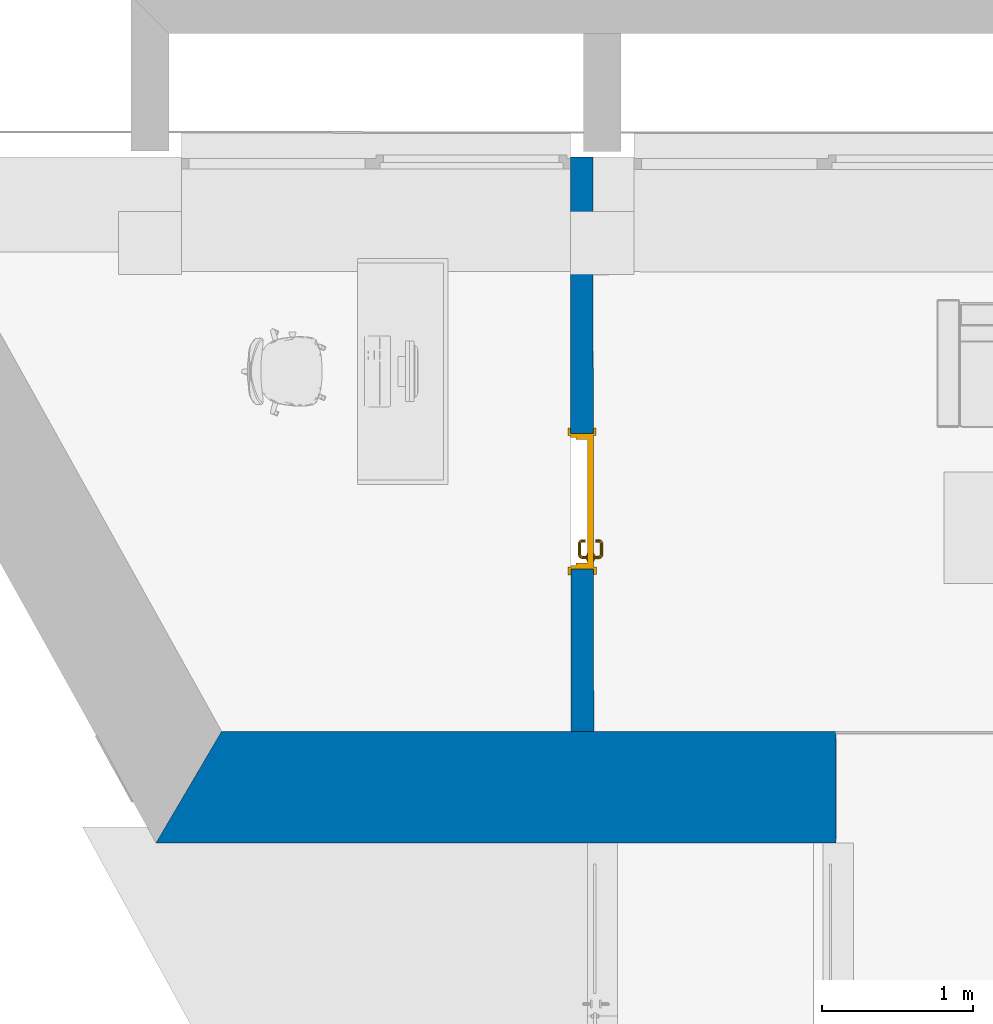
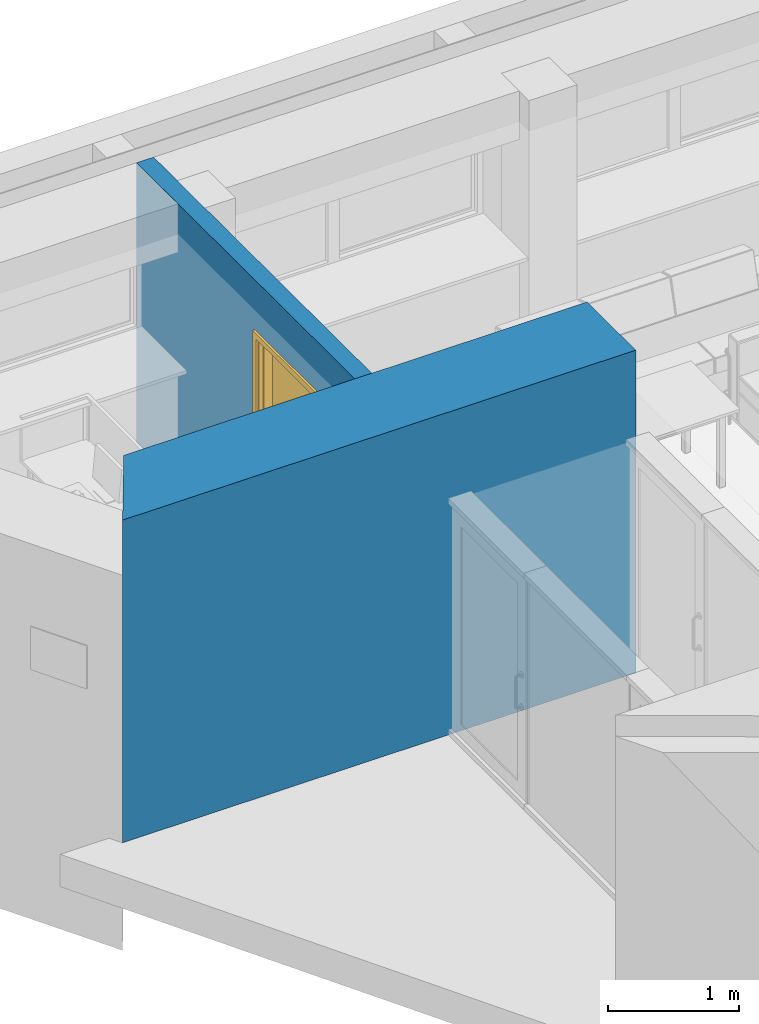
# One storey, part 3 of 127: 2 walls, 1 door, 1 opening.
"""IFC2X3 building model written with IfcOpenShell, lengths in millimetres."""

import ifcopenshell
import ifcopenshell.guid

model = None  # the IFC model being written
_history = None  # IfcOwnerHistory: only IFC2X3 demands one
_inside = {}  # id of a spatial element -> (the spatial element, [elements in it])
_under = {}  # id of a project, library or spatial element -> (it, [spatial elements below it])
_declared = {}  # id of a project -> (the project, [libraries it declares])
_typed = {}  # id of a type object -> (the type object, [elements of that type])
_made_of = {}  # id of a material, layer set ... -> (it, [elements and type objects made of it])


def new_model(schema):
    """Start an empty IFC model of exactly this schema.

    Asked for "IFC4X3", IfcOpenShell would pick the latest addendum, in which some entities
    have other attributes; the version numbers below select the first issue.
    IFC2X3 requires an IfcOwnerHistory on every rooted entity: one is made here for all.
    """
    global model, _history
    if schema == "IFC4X3":
        model = ifcopenshell.file(schema_version=(4, 3, 0, 0))
    else:
        model = ifcopenshell.file(schema=schema)
    _inside.clear()
    _under.clear()
    _declared.clear()
    _typed.clear()
    _made_of.clear()
    _history = None
    if model.schema == "IFC2X3":
        org = make("IfcOrganization", Name="unknown")
        user = make(
            "IfcPersonAndOrganization",
            ThePerson=make("IfcPerson", FamilyName="unknown"),
            TheOrganization=org,
        )
        app = make(
            "IfcApplication",
            ApplicationDeveloper=org,
            Version="unknown",
            ApplicationFullName="unknown",
            ApplicationIdentifier="unknown",
        )
        _history = make(
            "IfcOwnerHistory",
            OwningUser=user,
            OwningApplication=app,
            ChangeAction="ADDED",
            CreationDate=0,
        )
    return model


def make(cls, **values):
    """One entity of the class cls with the attributes given. An attribute that is None is left unset."""
    return model.create_entity(
        cls, **{name: value for name, value in values.items() if value is not None}
    )


def entity(cls, *values):
    """Any entity or typed value of the class cls, its attributes in the order of the schema. None: left unset."""
    e = model.create_entity(cls)
    for i, value in enumerate(values):
        if value is not None:
            e[i] = value
    return e


def rooted(cls, **values):
    """An entity with a GlobalId (a new one), such as an element, a storey or a relation."""
    return make(cls, GlobalId=ifcopenshell.guid.new(), OwnerHistory=_history, **values)


def si_unit(unit_type, name, prefix=None):
    """IfcSIUnit, for example si_unit("LENGTHUNIT", "METRE", prefix="MILLI")."""
    return make("IfcSIUnit", UnitType=unit_type, Prefix=prefix, Name=name)


def converted_unit(unit_type, name, factor, base, dimensions=None, offset=None):
    """IfcConversionBasedUnit, such as the inch: factor (a typed value) times the base unit."""
    return make(
        "IfcConversionBasedUnit"
        if offset is None
        else "IfcConversionBasedUnitWithOffset",
        ConversionOffset=offset,
        Dimensions=None
        if dimensions is None
        else entity("IfcDimensionalExponents", *dimensions),
        UnitType=unit_type,
        Name=name,
        ConversionFactor=make(
            "IfcMeasureWithUnit", ValueComponent=factor, UnitComponent=base
        ),
    )


def derived_unit(unit_type, elements):
    """IfcDerivedUnit: a product of units, each with its exponent."""
    return make(
        "IfcDerivedUnit",
        Elements=[
            make("IfcDerivedUnitElement", Unit=unit, Exponent=power)
            for unit, power in elements
        ],
        UnitType=unit_type,
    )


def money_unit(currency):
    """IfcMonetaryUnit."""
    return make("IfcMonetaryUnit", Currency=currency)


def assignment(units):
    """IfcUnitAssignment: the units of a project."""
    return None if units is None else make("IfcUnitAssignment", Units=units)


def point(xyz):
    """IfcCartesianPoint."""
    return None if xyz is None else make("IfcCartesianPoint", Coordinates=xyz)


def direction(xyz):
    """IfcDirection."""
    return None if xyz is None else make("IfcDirection", DirectionRatios=xyz)


def frame(location, z_axis=None, x_axis=None):
    """IfcAxis2Placement3D, a coordinate frame: its origin and axes. An axis left out is left unset."""
    return make(
        "IfcAxis2Placement3D",
        Location=point(location),
        Axis=direction(z_axis),
        RefDirection=direction(x_axis),
    )


def frame_2d(location, x_axis=None):
    """IfcAxis2Placement2D, a coordinate frame in the plane: its origin and x axis."""
    return make(
        "IfcAxis2Placement2D", Location=point(location), RefDirection=direction(x_axis)
    )


def origin_with_axes():
    """The frame at (0, 0, 0) with the z axis (0, 0, 1) and the x axis (1, 0, 0) written out."""
    return frame((0.0, 0.0, 0.0), z_axis=(0.0, 0.0, 1.0), x_axis=(1.0, 0.0, 0.0))


def origin_2d_with_axis():
    """The frame at (0, 0) in the plane with the x axis (1, 0) written out."""
    return frame_2d((0.0, 0.0), x_axis=(1.0, 0.0))


def place(relative_to, where):
    """IfcLocalPlacement: puts the frame where relative to a parent placement (None: the world)."""
    return make(
        "IfcLocalPlacement", PlacementRelTo=relative_to, RelativePlacement=where
    )


def context(
    kind, dimensions, precision=None, world=None, true_north=None, identifier=None
):
    """IfcGeometricRepresentationContext, for example the 3D "Model" context."""
    return make(
        "IfcGeometricRepresentationContext",
        ContextIdentifier=identifier,
        ContextType=kind,
        CoordinateSpaceDimension=dimensions,
        Precision=precision,
        WorldCoordinateSystem=world,
        TrueNorth=true_north,
    )


def subcontext(parent, identifier, kind, view, scale=None):
    """IfcGeometricRepresentationSubContext, for example "Body" below "Model"."""
    return make(
        "IfcGeometricRepresentationSubContext",
        ContextIdentifier=identifier,
        ContextType=kind,
        ParentContext=parent,
        TargetScale=scale,
        TargetView=view,
    )


def project(units=None, contexts=None):
    """IfcProject with its units and contexts."""
    return rooted(
        "IfcProject",
        Name="project",
        RepresentationContexts=contexts,
        UnitsInContext=assignment(units),
    )


def spatial(cls, under=None, at=None, **own):
    """A site, building, storey or space (cls), placed at a placement, below another one or the project."""
    s = rooted(cls, ObjectPlacement=at, **own)
    if under is not None:
        _under.setdefault(under.id(), (under, []))[1].append(s)
    return s


def polyline(points):
    """IfcPolyline through the points."""
    return make("IfcPolyline", Points=[point(p) for p in points])


def profile(cls, at=None, kind="AREA", **sizes):
    """A parametric profile (cls). Its sizes go by their IFC names, for example OverallWidth=200.0."""
    return make(cls, ProfileType=kind, Position=at, **sizes)


def rectangle(**sizes):
    """IfcRectangleProfileDef."""
    return profile("IfcRectangleProfileDef", **sizes)


def outline(outer, holes=None, kind="AREA"):
    """IfcArbitraryClosedProfileDef: a profile drawn as a closed curve; with holes, ...WithVoids."""
    if holes is None:
        return make("IfcArbitraryClosedProfileDef", ProfileType=kind, OuterCurve=outer)
    return make(
        "IfcArbitraryProfileDefWithVoids",
        ProfileType=kind,
        OuterCurve=outer,
        InnerCurves=holes,
    )


def extrude(swept, where, along, depth):
    """IfcExtrudedAreaSolid: the profile swept, set in the frame where, extruded along a direction by depth."""
    return make(
        "IfcExtrudedAreaSolid",
        SweptArea=swept,
        Position=where,
        ExtrudedDirection=direction(along),
        Depth=depth,
    )


def faces_of(points, faces, orient=None, outer=None):
    """IfcFace entities. A face is a list of loops; a loop is a list of indices into points, from 0.

    orient and outer hold one flag for each loop. By default every Orientation is true, the
    first loop of a face is its IfcFaceOuterBound and the others are IfcFaceBound.
    """
    made = []
    for i, loops in enumerate(faces):
        bounds = []
        for j, loop in enumerate(loops):
            is_outer = j == 0 if outer is None else outer[i][j]
            bounds.append(
                make(
                    "IfcFaceOuterBound" if is_outer else "IfcFaceBound",
                    Bound=make("IfcPolyLoop", Polygon=[points[k] for k in loop]),
                    Orientation=True if orient is None else orient[i][j],
                )
            )
        made.append(make("IfcFace", Bounds=bounds))
    return made


def open_shell(faces, orient=None, outer=None):
    """The faces of one IfcOpenShell. surface_model builds it on its shared points."""
    return ("IfcOpenShell", faces, orient, outer)


def faceted_brep(points, faces, orient=None, outer=None, voids=None):
    """IfcFacetedBrep: a solid bounded by flat faces; with voids (closed shells), ...WithVoids."""
    shared = [point(p) for p in points]
    hull = make("IfcClosedShell", CfsFaces=faces_of(shared, faces, orient, outer))
    if voids is None:
        return make("IfcFacetedBrep", Outer=hull)
    return make(
        "IfcFacetedBrepWithVoids",
        Outer=hull,
        Voids=[
            make(cls, CfsFaces=faces_of(shared, fs, o, b)) for cls, fs, o, b in voids
        ],
    )


def surface_model(cls, points, shells):
    """IfcFaceBasedSurfaceModel or IfcShellBasedSurfaceModel (cls): surfaces that need not close."""
    shared = [point(p) for p in points]
    made = [make(c, CfsFaces=faces_of(shared, fs, o, b)) for c, fs, o, b in shells]
    if cls == "IfcFaceBasedSurfaceModel":
        return make(cls, FbsmFaces=made)
    return make(cls, SbsmBoundary=made)


def shape(context_of_items, identifier, shape_type, items):
    """IfcShapeRepresentation: the items that make up one representation, for example the "Body"."""
    return make(
        "IfcShapeRepresentation",
        ContextOfItems=context_of_items,
        RepresentationIdentifier=identifier,
        RepresentationType=shape_type,
        Items=items,
    )


def source(mapping_origin, context_of_items, identifier, shape_type, items):
    """IfcRepresentationMap: a shape defined once, which mapped items show again and again."""
    return make(
        "IfcRepresentationMap",
        MappingOrigin=mapping_origin,
        MappedRepresentation=shape(context_of_items, identifier, shape_type, items),
    )


def transform(
    local_origin,
    x_axis=None,
    y_axis=None,
    z_axis=None,
    scale=None,
    scale2=None,
    scale3=None,
    uniform=True,
):
    """IfcCartesianTransformationOperator3D, or its non-uniform kind. x_axis, y_axis, z_axis: its Axis1, 2, 3."""
    if uniform:
        return make(
            "IfcCartesianTransformationOperator3D",
            Axis1=direction(x_axis),
            Axis2=direction(y_axis),
            LocalOrigin=point(local_origin),
            Scale=scale,
            Axis3=direction(z_axis),
        )
    return make(
        "IfcCartesianTransformationOperator3DnonUniform",
        Axis1=direction(x_axis),
        Axis2=direction(y_axis),
        LocalOrigin=point(local_origin),
        Scale=scale,
        Axis3=direction(z_axis),
        Scale2=scale2,
        Scale3=scale3,
    )


def mapped(mapping_source, mapping_target):
    """IfcMappedItem: shows the shape of a source again, moved by a transform."""
    return make(
        "IfcMappedItem", MappingSource=mapping_source, MappingTarget=mapping_target
    )


def material(Name=None, Category=None):
    """IfcMaterial."""
    return make("IfcMaterial", Name=Name, Category=Category)


def layer(
    of_material, thickness, ventilated=None, Name=None, Category=None, Priority=None
):
    """IfcMaterialLayer: one layer of a wall or slab, of a material (None: an air gap)."""
    return make(
        "IfcMaterialLayer",
        Material=of_material,
        LayerThickness=thickness,
        IsVentilated=ventilated,
        Name=Name,
        Category=Category,
        Priority=Priority,
    )


def layer_set(layers, Name=None):
    """IfcMaterialLayerSet."""
    return make("IfcMaterialLayerSet", MaterialLayers=layers, LayerSetName=Name)


def layer_usage(for_layer_set, set_direction, sense, offset, extent=None):
    """IfcMaterialLayerSetUsage: how a layer set lies in its element."""
    return make(
        "IfcMaterialLayerSetUsage",
        ForLayerSet=for_layer_set,
        LayerSetDirection=set_direction,
        DirectionSense=sense,
        OffsetFromReferenceLine=offset,
        ReferenceExtent=extent,
    )


def made_of(thing, what):
    """Note that an element or type object is made of a material, layer set ...; save() writes the relation."""
    if what is not None:
        _made_of.setdefault(what.id(), (what, []))[1].append(thing)
    return thing


def type_object(cls, material=None, **own):
    """A type object (cls), such as IfcWallType, which elements share."""
    return made_of(rooted(cls, **own), material)


def element(
    cls,
    number,
    at=None,
    inside=None,
    cuts=None,
    type_object=None,
    material=None,
    context=None,
    identifier="Body",
    shape_type=None,
    held_by="IfcProductDefinitionShape",
    body=None,
    shapes=None,
    **own,
):
    """One element of the class cls, such as IfcWall. Its Tag is "e" and its number.

    at: its placement. inside: the storey or other place that contains it. cuts: it is an
    opening in that element (IfcRelVoidsElement). A single representation is given by context,
    identifier, shape_type and body (its items); several are given by shapes. held_by: the class
    of the entity that holds the representations. save() writes the other relations.
    """
    e = rooted(cls, Tag="e%d" % number, ObjectPlacement=at, **own)
    if body is not None:
        shapes = [shape(context, identifier, shape_type, body)]
    if shapes is not None:
        e.Representation = make(held_by, Representations=shapes)
    if inside is not None:
        _inside.setdefault(inside.id(), (inside, []))[1].append(e)
    if cuts is not None:
        rooted(
            "IfcRelVoidsElement", RelatingBuildingElement=cuts, RelatedOpeningElement=e
        )
    if type_object is not None:
        _typed.setdefault(type_object.id(), (type_object, []))[1].append(e)
    return made_of(e, material)


def fill(opening, filler):
    """IfcRelFillsElement: the door or window that sits in an opening."""
    return rooted(
        "IfcRelFillsElement",
        RelatingOpeningElement=opening,
        RelatedBuildingElement=filler,
    )


def aggregate(whole, parts):
    """IfcRelAggregates: a whole, such as a stair, and the parts it consists of."""
    return rooted("IfcRelAggregates", RelatingObject=whole, RelatedObjects=parts)


def save(model, path):
    """Write the relations noted so far, then the file.

    IfcRelAggregates (storeys below a building ...), IfcRelContainedInSpatialStructure (elements
    in a storey), IfcRelDefinesByType, IfcRelAssociatesMaterial and IfcRelDeclares: one each for
    every whole, place, type object, material and project.
    """
    for whole, parts in _under.values():
        aggregate(whole, parts)
    for where, things in _inside.values():
        rooted(
            "IfcRelContainedInSpatialStructure",
            RelatedElements=things,
            RelatingStructure=where,
        )
    for kind, things in _typed.values():
        rooted("IfcRelDefinesByType", RelatedObjects=things, RelatingType=kind)
    for what, things in _made_of.values():
        rooted("IfcRelAssociatesMaterial", RelatedObjects=things, RelatingMaterial=what)
    for by, libraries in _declared.values():
        rooted("IfcRelDeclares", RelatingContext=by, RelatedDefinitions=libraries)
    model.write(path)


model = new_model("IFC2X3")

# Units and contexts
model_context = context("Model", 3, precision=1e-05, world=origin_with_axes(), true_north=direction((0.0, 1.0)))
body_context = subcontext(model_context, "Body", "Model", "MODEL_VIEW")
ifc_project = project(units=[si_unit("LENGTHUNIT", "METRE", prefix="MILLI"), si_unit("AREAUNIT", "SQUARE_METRE"), si_unit("VOLUMEUNIT", "CUBIC_METRE"), converted_unit("PLANEANGLEUNIT", "DEGREE", entity("IfcPlaneAngleMeasure", 0.0174532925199), si_unit("PLANEANGLEUNIT", "RADIAN"), dimensions=[0, 0, 0, 0, 0, 0, 0]), si_unit("SOLIDANGLEUNIT", "STERADIAN"), money_unit("EUR"), converted_unit("TIMEUNIT", "Year", entity("IfcTimeMeasure", 31556926.0), si_unit("TIMEUNIT", "SECOND"), dimensions=[0, 0, 1, 0, 0, 0, 0]), si_unit("MASSUNIT", "GRAM", prefix="KILO"), si_unit("THERMODYNAMICTEMPERATUREUNIT", "DEGREE_CELSIUS"), si_unit("LUMINOUSINTENSITYUNIT", "LUMEN"), si_unit("ENERGYUNIT", "JOULE", prefix="MEGA"), derived_unit("THERMALCONDUCTANCEUNIT", [(si_unit("POWERUNIT", "WATT"), 1), (si_unit("LENGTHUNIT", "METRE"), -1), (si_unit("THERMODYNAMICTEMPERATUREUNIT", "KELVIN"), -1)]), derived_unit("SPECIFICHEATCAPACITYUNIT", [(si_unit("ENERGYUNIT", "JOULE"), 1), (si_unit("MASSUNIT", "GRAM", prefix="KILO"), -1), (si_unit("THERMODYNAMICTEMPERATUREUNIT", "KELVIN"), -1)]), derived_unit("MASSDENSITYUNIT", [(si_unit("MASSUNIT", "GRAM", prefix="KILO"), 1), (si_unit("VOLUMEUNIT", "CUBIC_METRE"), -1)])], contexts=[model_context])

# Site, building, storey
site_placement = place(None, origin_with_axes())
site = spatial("IfcSite", under=ifc_project, at=site_placement, Name="Site", CompositionType="ELEMENT")
building_placement = place(site_placement, origin_with_axes())
building = spatial("IfcBuilding", under=site, at=building_placement, Name="Building", CompositionType="ELEMENT")
storey_placement = place(building_placement, origin_with_axes())
storey = spatial("IfcBuildingStorey", under=building, at=storey_placement, Name="1 KORRUS", CompositionType="ELEMENT", Elevation=0.0)

# Wall, opening, door
ifc_material_1 = material(Name="Kivi -Ol.Olev Konstruktsioon")
ifc_layer_1 = layer(ifc_material_1, 150.0, ventilated="UNKNOWN")
ifc_layer_set_1 = layer_set([ifc_layer_1], Name="ol.olev ss 150")
ifc_layer_usage_1 = layer_usage(ifc_layer_set_1, "AXIS2", "POSITIVE", 0.0)
wall_type_1 = type_object("IfcWallType", Name="SW - 036", PredefinedType="NOTDEFINED")
wall_1_placement = place(storey_placement, frame((18733.1205053, 47251.9557721, 0.0), z_axis=(0.0, 0.0, 1.0), x_axis=(0.00155051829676, -0.999998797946, 0.0)))
wall_1 = element("IfcWallStandardCase", 1, at=wall_1_placement, inside=storey, type_object=wall_type_1, material=ifc_layer_usage_1, Name="ol.olev ss 150", context=body_context, shape_type="SweptSolid", body=[
    extrude(outline(polyline([(0.0, 0.0), (3808.91868306, 0.0), (3809.1472141, 150.0), (0.0, 150.0), (0.0, 0.0)])), origin_with_axes(), (0.0, 0.0, 1.0), 2600.0),
])
opening_placement = place(wall_1_placement, frame((2283.47957722, 1.13686837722e-10, 0.0), z_axis=(0.0, 0.0, 1.0), x_axis=(1.0, 0.0, 0.0)))
opening = element("IfcOpeningElement", 2, at=opening_placement, cuts=wall_1, Name="Siseuks * Door 22", context=body_context, shape_type="SweptSolid", body=[
    extrude(rectangle(XDim=900.000000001, YDim=2100.0, at=origin_2d_with_axis()), frame((9.09494701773e-10, -150.0, 1050.0), z_axis=(0.0, -1.0, 0.0), x_axis=(-1.0, 0.0, 0.0)), (0.0, 0.0, -1.0), 450.0),
    extrude(rectangle(XDim=974.0, YDim=2137.0, at=origin_2d_with_axis()), frame((0.0, 0.0, 1068.5), z_axis=(0.0, -1.0, 0.0), x_axis=(-1.0, 0.0, 0.0)), (0.0, 0.0, 1.0), 150.0),
    extrude(rectangle(XDim=973.999999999, YDim=2137.0, at=origin_2d_with_axis()), frame((0.0, 150.0, 1068.5), z_axis=(0.0, 1.0, 0.0), x_axis=(-1.0, 0.0, 0.0)), (0.0, 0.0, 1.0), 150.0),
])
door_style = type_object("IfcDoorStyle", Name="SU-B102   900×2\xa0100", ConstructionType="NOTDEFINED", OperationType="SINGLE_SWING_LEFT", ParameterTakesPrecedence=False, Sizeable=False)
shared_shape = source(origin_with_axes(), body_context, "Body", "SurfaceModel", [
    faceted_brep([(450.0, -115.0, 0.0), (450.0, -150.0, 0.0), (425.0, -150.0, 0.0), (425.0, -115.0, 0.0), (450.0, -115.0, 2100.0), (450.0, -150.0, 2100.0), (425.0, -150.0, 2075.0), (425.0, -115.0, 2075.0)], [[[0, 1, 2, 3]], [[4, 5, 1, 0]], [[1, 5, 6, 2]], [[3, 2, 6, 7]], [[0, 3, 7, 4]], [[7, 6, 5, 4]]]),
    faceted_brep([(-450.0, -115.0, 2100.0), (-450.0, -150.0, 2100.0), (-425.0, -150.0, 2075.0), (-425.0, -115.0, 2075.0), (-450.0, -115.0, 0.0), (-450.0, -150.0, 0.0), (-425.0, -150.0, 0.0), (-425.0, -115.0, 0.0)], [[[0, 1, 2, 3]], [[4, 5, 1, 0]], [[1, 5, 6, 2]], [[3, 2, 6, 7]], [[0, 3, 7, 4]], [[7, 6, 5, 4]]]),
    faceted_brep([(425.0, -115.0, 2075.0), (425.0, -150.0, 2075.0), (-425.0, -150.0, 2075.0), (-425.0, -115.0, 2075.0), (450.0, -115.0, 2100.0), (450.0, -150.0, 2100.0), (-450.0, -150.0, 2100.0), (-450.0, -115.0, 2100.0)], [[[0, 1, 2, 3]], [[4, 5, 1, 0]], [[1, 5, 6, 2]], [[3, 2, 6, 7]], [[0, 3, 7, 4]], [[7, 6, 5, 4]]]),
    faceted_brep([(487.0, -169.0, 0.0), (437.0, -169.0, 0.0), (437.0, -150.0, 0.0), (487.0, -150.0, 0.0), (487.0, -169.0, 2137.0), (437.0, -169.0, 2087.0), (437.0, -150.0, 2087.0), (487.0, -150.0, 2137.0)], [[[0, 1, 2, 3]], [[0, 4, 5, 1]], [[1, 5, 6, 2]], [[3, 2, 6, 7]], [[4, 0, 3, 7]], [[5, 4, 7, 6]]]),
    faceted_brep([(-487.0, -169.0, 2137.0), (-437.0, -169.0, 2087.0), (-437.0, -150.0, 2087.0), (-487.0, -150.0, 2137.0), (-487.0, -169.0, 0.0), (-437.0, -169.0, 0.0), (-437.0, -150.0, 0.0), (-487.0, -150.0, 0.0)], [[[0, 1, 2, 3]], [[0, 4, 5, 1]], [[1, 5, 6, 2]], [[3, 2, 6, 7]], [[4, 0, 3, 7]], [[5, 4, 7, 6]]]),
    faceted_brep([(487.0, -169.0, 2137.0), (437.0, -169.0, 2087.0), (437.0, -150.0, 2087.0), (487.0, -150.0, 2137.0), (-487.0, -169.0, 2137.0), (-437.0, -169.0, 2087.0), (-437.0, -150.0, 2087.0), (-487.0, -150.0, 2137.0)], [[[0, 1, 2, 3]], [[0, 4, 5, 1]], [[1, 5, 6, 2]], [[3, 2, 6, 7]], [[4, 0, 3, 7]], [[5, 4, 7, 6]]]),
    faceted_brep([(487.0, 19.0, 0.0), (487.0, 0.0, 0.0), (437.0, 0.0, 0.0), (437.0, 19.0, 0.0), (487.0, 19.0, 2137.0), (487.0, 0.0, 2137.0), (437.0, 0.0, 2087.0), (437.0, 19.0, 2087.0)], [[[0, 1, 2, 3]], [[4, 5, 1, 0]], [[1, 5, 6, 2]], [[3, 2, 6, 7]], [[0, 3, 7, 4]], [[7, 6, 5, 4]]]),
    faceted_brep([(-487.0, 19.0, 2137.0), (-487.0, 0.0, 2137.0), (-437.0, 0.0, 2087.0), (-437.0, 19.0, 2087.0), (-487.0, 19.0, 0.0), (-487.0, 0.0, 0.0), (-437.0, 0.0, 0.0), (-437.0, 19.0, 0.0)], [[[0, 1, 2, 3]], [[4, 5, 1, 0]], [[1, 5, 6, 2]], [[3, 2, 6, 7]], [[0, 3, 7, 4]], [[7, 6, 5, 4]]]),
    faceted_brep([(487.0, 19.0, 2137.0), (487.0, 0.0, 2137.0), (437.0, 0.0, 2087.0), (437.0, 19.0, 2087.0), (-487.0, 19.0, 2137.0), (-487.0, 0.0, 2137.0), (-437.0, 0.0, 2087.0), (-437.0, 19.0, 2087.0)], [[[0, 1, 2, 3]], [[4, 5, 1, 0]], [[1, 5, 6, 2]], [[3, 2, 6, 7]], [[0, 3, 7, 4]], [[7, 6, 5, 4]]]),
    faceted_brep([(410.0, -40.0, 0.0), (410.0, -115.0, 0.0), (410.0, -115.0, 2060.0), (410.0, -40.0, 2060.0), (422.0, -40.0, 0.0), (422.0, 0.0, 0.0), (450.0, 0.0, 0.0), (450.0, -115.0, 0.0), (450.0, -115.0, 2060.0), (422.0, -40.0, 2060.0), (450.0, 0.0, 2060.0), (422.0, 0.0, 2060.0)], [[[0, 1, 2, 3]], [[4, 5, 6, 7, 1, 0]], [[1, 7, 8, 2]], [[9, 3, 2, 8, 10, 11]], [[9, 4, 0, 3]], [[11, 5, 4, 9]], [[11, 10, 6, 5]], [[6, 10, 8, 7]]]),
    faceted_brep([(-422.0, -40.0, 2060.0), (-422.0, 0.0, 2060.0), (-450.0, 0.0, 2060.0), (-450.0, -115.0, 2060.0), (-410.0, -115.0, 2060.0), (-410.0, -40.0, 2060.0), (-422.0, -40.0, 0.0), (-422.0, 0.0, 0.0), (-450.0, 0.0, 0.0), (-450.0, -115.0, 0.0), (-410.0, -115.0, 0.0), (-410.0, -40.0, 0.0)], [[[0, 1, 2, 3, 4, 5]], [[0, 6, 7, 1]], [[7, 8, 2, 1]], [[2, 8, 9, 3]], [[3, 9, 10, 4]], [[5, 4, 10, 11]], [[5, 11, 6, 0]], [[6, 11, 10, 9, 8, 7]]]),
    faceted_brep([(422.0, 0.0, 2072.0), (-422.0, 0.0, 2072.0), (-422.0, 0.0, 2060.0), (-450.0, 0.0, 2060.0), (-450.0, 0.0, 2100.0), (450.0, 0.0, 2100.0), (450.0, 0.0, 2060.0), (422.0, 0.0, 2060.0), (422.0, -40.0, 2072.0), (-422.0, -40.0, 2072.0), (-422.0, -40.0, 2060.0), (-410.0, -40.0, 2060.0), (-410.0, -115.0, 2060.0), (-450.0, -115.0, 2060.0), (-450.0, -115.0, 2100.0), (450.0, -115.0, 2100.0), (450.0, -115.0, 2060.0), (422.0, -40.0, 2060.0), (410.0, -115.0, 2060.0), (410.0, -40.0, 2060.0)], [[[0, 1, 2, 3, 4, 5, 6, 7]], [[0, 8, 9, 1]], [[1, 9, 10, 2]], [[10, 11, 12, 13, 3, 2]], [[4, 3, 13, 14]], [[5, 4, 14, 15]], [[6, 5, 15, 16]], [[17, 7, 6, 16, 18, 19]], [[7, 17, 8, 0]], [[10, 9, 8, 17, 19, 11]], [[19, 18, 12, 11]], [[12, 18, 16, 15, 14, 13]]]),
    faceted_brep([(400.5, -40.0, 1060.0), (343.5, -40.0, 1060.0), (343.5, -43.0, 1060.0), (400.5, -43.0, 1060.0), (400.5, -40.0, 870.0), (343.5, -40.0, 870.0), (343.5, -43.0, 870.0), (400.5, -43.0, 870.0)], [[[0, 1, 2, 3]], [[0, 4, 5, 1]], [[1, 5, 6, 2]], [[3, 2, 6, 7]], [[4, 0, 3, 7]], [[5, 4, 7, 6]]]),
    surface_model("IfcShellBasedSurfaceModel", [(362.0, -53.0, 1000.0), (364.928932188, -53.0, 992.928932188), (364.928932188, -72.303560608, 992.928932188), (362.0, -72.0150859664, 1000.0), (372.0, -53.0, 990.0), (372.0, -73.0, 990.0), (363.816790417, -77.8946748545, 992.928932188), (361.057796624, -76.751862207, 1000.0), (364.928932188, -53.0, 1007.07106781), (364.928932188, -72.303560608, 1007.07106781), (379.071067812, -53.0, 992.928932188), (379.071067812, -73.696439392, 992.928932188), (370.47759065, -80.6536686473, 990.0), (361.044179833, -82.0441798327, 992.928932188), (358.932537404, -79.9325374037, 1000.0), (363.816790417, -77.8946748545, 1007.07106781), (372.0, -53.0, 1010.0), (372.0, -73.0, 1010.0), (382.0, -53.0, 1000.0), (382.0, -73.9849140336, 1000.0), (377.138390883, -83.4126624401, 992.928932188), (366.142135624, -87.1421356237, 990.0), (356.894674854, -84.8167904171, 992.928932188), (355.751862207, -82.0577966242, 1000.0), (361.044179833, -82.0441798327, 1007.07106781), (370.47759065, -80.6536686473, 1010.0), (379.071067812, -53.0, 1007.07106781), (379.071067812, -73.696439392, 1007.07106781), (379.897384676, -84.5554750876, 1000.0), (371.240091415, -92.2400914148, 992.928932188), (359.653668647, -91.4775906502, 990.0), (351.303560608, -85.9289321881, 992.928932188), (351.015085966, -83.0, 1000.0), (356.894674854, -84.8167904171, 1007.07106781), (366.142135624, -87.1421356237, 1010.0), (377.138390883, -83.4126624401, 1007.07106781), (373.351733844, -94.3517338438, 1000.0), (362.41266244, -98.1383908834, 992.928932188), (352.0, -93.0, 990.0), (282.696439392, -85.9289321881, 992.928932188), (282.984914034, -83.0, 1000.0), (351.303560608, -85.9289321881, 1007.07106781), (359.653668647, -91.4775906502, 1010.0), (371.240091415, -92.2400914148, 1007.07106781), (363.555475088, -100.897384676, 1000.0), (352.696439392, -100.071067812, 992.928932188), (282.0, -93.0, 990.0), (277.105325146, -84.8167904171, 992.928932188), (278.248137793, -82.0577966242, 1000.0), (282.696439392, -85.9289321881, 1007.07106781), (352.0, -93.0, 1010.0), (362.41266244, -98.1383908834, 1007.07106781), (352.984914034, -103.0, 1000.0), (281.303560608, -100.071067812, 992.928932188), (274.346331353, -91.4775906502, 990.0), (272.955820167, -82.0441798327, 992.928932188), (275.067462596, -79.9325374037, 1000.0), (277.105325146, -84.8167904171, 1007.07106781), (282.0, -93.0, 1010.0), (352.696439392, -100.071067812, 1007.07106781), (281.015085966, -103.0, 1000.0), (271.58733756, -98.1383908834, 992.928932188), (267.857864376, -87.1421356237, 990.0), (270.183209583, -77.8946748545, 992.928932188), (272.942203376, -76.751862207, 1000.0), (272.955820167, -82.0441798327, 1007.07106781), (274.346331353, -91.4775906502, 1010.0), (281.303560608, -100.071067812, 1007.07106781), (270.444524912, -100.897384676, 1000.0), (262.759908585, -92.2400914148, 992.928932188), (263.52240935, -80.6536686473, 990.0), (269.071067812, -72.303560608, 992.928932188), (272.0, -72.0150859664, 1000.0), (270.183209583, -77.8946748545, 1007.07106781), (267.857864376, -87.1421356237, 1010.0), (271.58733756, -98.1383908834, 1007.07106781), (260.648266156, -94.3517338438, 1000.0), (256.861609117, -83.4126624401, 992.928932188), (262.0, -73.0, 990.0), (269.071067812, -53.0, 992.928932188), (272.0, -53.0, 1000.0), (269.071067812, -72.303560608, 1007.07106781), (263.52240935, -80.6536686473, 1010.0), (262.759908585, -92.2400914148, 1007.07106781), (254.102615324, -84.5554750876, 1000.0), (254.928932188, -73.696439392, 992.928932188), (262.0, -53.0, 990.0), (254.928932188, -53.0, 992.928932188), (252.0, -53.0, 1000.0), (254.928932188, -53.0, 1007.07106781), (262.0, -53.0, 1010.0), (269.071067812, -53.0, 1007.07106781), (262.0, -73.0, 1010.0), (256.861609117, -83.4126624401, 1007.07106781), (252.0, -73.9849140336, 1000.0), (254.928932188, -73.696439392, 1007.07106781)], [open_shell([[[0, 1, 2, 3]], [[1, 4, 5, 2]], [[3, 2, 6, 7]], [[8, 0, 3, 9]], [[4, 10, 11, 5]], [[2, 5, 12, 6]], [[7, 6, 13, 14]], [[9, 3, 7, 15]], [[16, 8, 9, 17]], [[10, 18, 19, 11]], [[5, 11, 20, 12]], [[6, 12, 21, 13]], [[14, 13, 22, 23]], [[15, 7, 14, 24]], [[17, 9, 15, 25]], [[26, 16, 17, 27]], [[18, 26, 27, 19]], [[11, 19, 28, 20]], [[12, 20, 29, 21]], [[13, 21, 30, 22]], [[23, 22, 31, 32]], [[24, 14, 23, 33]], [[25, 15, 24, 34]], [[27, 17, 25, 35]], [[19, 27, 35, 28]], [[20, 28, 36, 29]], [[21, 29, 37, 30]], [[22, 30, 38, 31]], [[32, 31, 39, 40]], [[33, 23, 32, 41]], [[34, 24, 33, 42]], [[35, 25, 34, 43]], [[28, 35, 43, 36]], [[29, 36, 44, 37]], [[30, 37, 45, 38]], [[31, 38, 46, 39]], [[40, 39, 47, 48]], [[41, 32, 40, 49]], [[42, 33, 41, 50]], [[43, 34, 42, 51]], [[36, 43, 51, 44]], [[37, 44, 52, 45]], [[38, 45, 53, 46]], [[39, 46, 54, 47]], [[48, 47, 55, 56]], [[49, 40, 48, 57]], [[50, 41, 49, 58]], [[51, 42, 50, 59]], [[44, 51, 59, 52]], [[45, 52, 60, 53]], [[46, 53, 61, 54]], [[47, 54, 62, 55]], [[56, 55, 63, 64]], [[57, 48, 56, 65]], [[58, 49, 57, 66]], [[59, 50, 58, 67]], [[52, 59, 67, 60]], [[53, 60, 68, 61]], [[54, 61, 69, 62]], [[55, 62, 70, 63]], [[64, 63, 71, 72]], [[65, 56, 64, 73]], [[66, 57, 65, 74]], [[67, 58, 66, 75]], [[60, 67, 75, 68]], [[61, 68, 76, 69]], [[62, 69, 77, 70]], [[63, 70, 78, 71]], [[72, 71, 79, 80]], [[73, 64, 72, 81]], [[74, 65, 73, 82]], [[75, 66, 74, 83]], [[68, 75, 83, 76]], [[69, 76, 84, 77]], [[70, 77, 85, 78]], [[71, 78, 86, 79]], [[80, 79, 86, 87, 88, 89, 90, 91]], [[81, 72, 80, 91]], [[82, 73, 81, 92]], [[83, 74, 82, 93]], [[76, 83, 93, 84]], [[77, 84, 94, 85]], [[78, 85, 87, 86]], [[85, 94, 88, 87]], [[94, 95, 89, 88]], [[95, 92, 90, 89]], [[92, 81, 91, 90]], [[93, 82, 92, 95]], [[84, 93, 95, 94]]])]),
    faceted_brep([(361.607695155, -53.0, 994.0), (360.0, -53.0, 1000.0), (359.0, -43.0, 1000.0), (360.741669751, -43.0, 993.5), (366.0, -53.0, 989.607695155), (372.0, -53.0, 988.0), (378.0, -53.0, 989.607695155), (382.392304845, -53.0, 994.0), (384.0, -53.0, 1000.0), (382.392304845, -53.0, 1006.0), (378.0, -53.0, 1010.39230485), (372.0, -53.0, 1012.0), (366.0, -53.0, 1010.39230485), (361.607695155, -53.0, 1006.0), (360.741669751, -43.0, 1006.5), (365.5, -43.0, 1011.25833025), (372.0, -43.0, 1013.0), (378.5, -43.0, 1011.25833025), (383.258330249, -43.0, 1006.5), (385.0, -43.0, 1000.0), (383.258330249, -43.0, 993.5), (378.5, -43.0, 988.741669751), (372.0, -43.0, 987.0), (365.5, -43.0, 988.741669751)], [[[0, 1, 2, 3]], [[1, 0, 4, 5, 6, 7, 8, 9, 10, 11, 12, 13]], [[1, 13, 14, 2]], [[2, 14, 15, 16, 17, 18, 19, 20, 21, 22, 23, 3]], [[4, 0, 3, 23]], [[5, 4, 23, 22]], [[6, 5, 22, 21]], [[7, 6, 21, 20]], [[8, 7, 20, 19]], [[9, 8, 19, 18]], [[10, 9, 18, 17]], [[11, 10, 17, 16]], [[12, 11, 16, 15]], [[13, 12, 15, 14]]]),
    faceted_brep([(354.679491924, -47.0, 895.0), (352.0, -47.0, 905.0), (350.0, -43.0, 905.0), (352.947441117, -43.0, 894.0), (362.0, -47.0, 887.679491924), (372.0, -47.0, 885.0), (382.0, -47.0, 887.679491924), (389.320508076, -47.0, 895.0), (392.0, -47.0, 905.0), (389.320508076, -47.0, 915.0), (382.0, -47.0, 922.320508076), (372.0, -47.0, 925.0), (362.0, -47.0, 922.320508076), (354.679491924, -47.0, 915.0), (352.947441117, -43.0, 916.0), (361.0, -43.0, 924.052558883), (372.0, -43.0, 927.0), (383.0, -43.0, 924.052558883), (391.052558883, -43.0, 916.0), (394.0, -43.0, 905.0), (391.052558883, -43.0, 894.0), (383.0, -43.0, 885.947441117), (372.0, -43.0, 883.0), (361.0, -43.0, 885.947441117)], [[[0, 1, 2, 3]], [[1, 0, 4, 5, 6, 7, 8, 9, 10, 11, 12, 13]], [[1, 13, 14, 2]], [[2, 14, 15, 16, 17, 18, 19, 20, 21, 22, 23, 3]], [[4, 0, 3, 23]], [[5, 4, 23, 22]], [[6, 5, 22, 21]], [[7, 6, 21, 20]], [[8, 7, 20, 19]], [[9, 8, 19, 18]], [[10, 9, 18, 17]], [[11, 10, 17, 16]], [[12, 11, 16, 15]], [[13, 12, 15, 14]]]),
    faceted_brep([(367.050252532, -49.0, 909.050252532), (365.0, -49.0, 914.0), (364.0, -47.0, 914.0), (366.343145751, -47.0, 908.343145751), (372.0, -49.0, 907.0), (376.949747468, -49.0, 909.050252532), (379.0, -49.0, 914.0), (376.949747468, -49.0, 918.949747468), (372.0, -49.0, 921.0), (367.050252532, -49.0, 918.949747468), (366.343145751, -47.0, 919.656854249), (372.0, -47.0, 922.0), (377.656854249, -47.0, 919.656854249), (380.0, -47.0, 914.0), (377.656854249, -47.0, 908.343145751), (372.0, -47.0, 906.0)], [[[0, 1, 2, 3]], [[1, 0, 4, 5, 6, 7, 8, 9]], [[1, 9, 10, 2]], [[2, 10, 11, 12, 13, 14, 15, 3]], [[4, 0, 3, 15]], [[5, 4, 15, 14]], [[6, 5, 14, 13]], [[7, 6, 13, 12]], [[8, 7, 12, 11]], [[9, 8, 11, 10]]]),
    faceted_brep([(400.5, 0.0, 1060.0), (400.5, 3.0, 1060.0), (343.5, 3.0, 1060.0), (343.5, 0.0, 1060.0), (400.5, 0.0, 870.0), (400.5, 3.0, 870.0), (343.5, 3.0, 870.0), (343.5, 0.0, 870.0)], [[[0, 1, 2, 3]], [[4, 5, 1, 0]], [[1, 5, 6, 2]], [[3, 2, 6, 7]], [[0, 3, 7, 4]], [[7, 6, 5, 4]]]),
    surface_model("IfcShellBasedSurfaceModel", [(362.0, 13.0, 1000.0), (362.0, 32.0150859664, 1000.0), (364.928932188, 32.303560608, 992.928932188), (364.928932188, 13.0, 992.928932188), (364.928932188, 13.0, 1007.07106781), (364.928932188, 32.303560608, 1007.07106781), (361.057796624, 36.751862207, 1000.0), (363.816790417, 37.8946748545, 992.928932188), (372.0, 33.0, 990.0), (372.0, 13.0, 990.0), (372.0, 13.0, 1010.0), (372.0, 33.0, 1010.0), (363.816790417, 37.8946748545, 1007.07106781), (358.932537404, 39.9325374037, 1000.0), (361.044179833, 42.0441798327, 992.928932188), (370.47759065, 40.6536686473, 990.0), (379.071067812, 33.696439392, 992.928932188), (379.071067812, 13.0, 992.928932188), (379.071067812, 13.0, 1007.07106781), (379.071067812, 33.696439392, 1007.07106781), (370.47759065, 40.6536686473, 1010.0), (361.044179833, 42.0441798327, 1007.07106781), (355.751862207, 42.0577966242, 1000.0), (356.894674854, 44.8167904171, 992.928932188), (366.142135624, 47.1421356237, 990.0), (377.138390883, 43.4126624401, 992.928932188), (382.0, 33.9849140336, 1000.0), (382.0, 13.0, 1000.0), (377.138390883, 43.4126624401, 1007.07106781), (366.142135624, 47.1421356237, 1010.0), (356.894674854, 44.8167904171, 1007.07106781), (351.015085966, 43.0, 1000.0), (351.303560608, 45.9289321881, 992.928932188), (359.653668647, 51.4775906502, 990.0), (371.240091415, 52.2400914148, 992.928932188), (379.897384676, 44.5554750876, 1000.0), (371.240091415, 52.2400914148, 1007.07106781), (359.653668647, 51.4775906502, 1010.0), (351.303560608, 45.9289321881, 1007.07106781), (282.984914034, 43.0, 1000.0), (282.696439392, 45.9289321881, 992.928932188), (352.0, 53.0, 990.0), (362.41266244, 58.1383908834, 992.928932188), (373.351733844, 54.3517338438, 1000.0), (362.41266244, 58.1383908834, 1007.07106781), (352.0, 53.0, 1010.0), (282.696439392, 45.9289321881, 1007.07106781), (278.248137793, 42.0577966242, 1000.0), (277.105325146, 44.8167904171, 992.928932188), (282.0, 53.0, 990.0), (352.696439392, 60.0710678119, 992.928932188), (363.555475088, 60.8973846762, 1000.0), (352.696439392, 60.0710678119, 1007.07106781), (282.0, 53.0, 1010.0), (277.105325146, 44.8167904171, 1007.07106781), (275.067462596, 39.9325374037, 1000.0), (272.955820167, 42.0441798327, 992.928932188), (274.346331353, 51.4775906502, 990.0), (281.303560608, 60.0710678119, 992.928932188), (352.984914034, 63.0, 1000.0), (281.303560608, 60.0710678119, 1007.07106781), (274.346331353, 51.4775906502, 1010.0), (272.955820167, 42.0441798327, 1007.07106781), (272.942203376, 36.751862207, 1000.0), (270.183209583, 37.8946748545, 992.928932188), (267.857864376, 47.1421356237, 990.0), (271.58733756, 58.1383908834, 992.928932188), (281.015085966, 63.0, 1000.0), (271.58733756, 58.1383908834, 1007.07106781), (267.857864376, 47.1421356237, 1010.0), (270.183209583, 37.8946748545, 1007.07106781), (272.0, 32.0150859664, 1000.0), (269.071067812, 32.303560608, 992.928932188), (263.52240935, 40.6536686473, 990.0), (262.759908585, 52.2400914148, 992.928932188), (270.444524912, 60.8973846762, 1000.0), (262.759908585, 52.2400914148, 1007.07106781), (263.52240935, 40.6536686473, 1010.0), (269.071067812, 32.303560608, 1007.07106781), (272.0, 13.0, 1000.0), (269.071067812, 13.0, 992.928932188), (262.0, 33.0, 990.0), (256.861609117, 43.4126624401, 992.928932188), (260.648266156, 54.3517338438, 1000.0), (256.861609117, 43.4126624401, 1007.07106781), (262.0, 33.0, 1010.0), (269.071067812, 13.0, 1007.07106781), (262.0, 13.0, 1010.0), (254.928932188, 13.0, 1007.07106781), (252.0, 13.0, 1000.0), (254.928932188, 13.0, 992.928932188), (262.0, 13.0, 990.0), (254.928932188, 33.696439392, 992.928932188), (254.102615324, 44.5554750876, 1000.0), (254.928932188, 33.696439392, 1007.07106781), (252.0, 33.9849140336, 1000.0)], [open_shell([[[0, 1, 2, 3]], [[4, 5, 1, 0]], [[1, 6, 7, 2]], [[3, 2, 8, 9]], [[10, 11, 5, 4]], [[5, 12, 6, 1]], [[6, 13, 14, 7]], [[2, 7, 15, 8]], [[9, 8, 16, 17]], [[18, 19, 11, 10]], [[11, 20, 12, 5]], [[12, 21, 13, 6]], [[13, 22, 23, 14]], [[7, 14, 24, 15]], [[8, 15, 25, 16]], [[17, 16, 26, 27]], [[27, 26, 19, 18]], [[19, 28, 20, 11]], [[20, 29, 21, 12]], [[21, 30, 22, 13]], [[22, 31, 32, 23]], [[14, 23, 33, 24]], [[15, 24, 34, 25]], [[16, 25, 35, 26]], [[26, 35, 28, 19]], [[28, 36, 29, 20]], [[29, 37, 30, 21]], [[30, 38, 31, 22]], [[31, 39, 40, 32]], [[23, 32, 41, 33]], [[24, 33, 42, 34]], [[25, 34, 43, 35]], [[35, 43, 36, 28]], [[36, 44, 37, 29]], [[37, 45, 38, 30]], [[38, 46, 39, 31]], [[39, 47, 48, 40]], [[32, 40, 49, 41]], [[33, 41, 50, 42]], [[34, 42, 51, 43]], [[43, 51, 44, 36]], [[44, 52, 45, 37]], [[45, 53, 46, 38]], [[46, 54, 47, 39]], [[47, 55, 56, 48]], [[40, 48, 57, 49]], [[41, 49, 58, 50]], [[42, 50, 59, 51]], [[51, 59, 52, 44]], [[52, 60, 53, 45]], [[53, 61, 54, 46]], [[54, 62, 55, 47]], [[55, 63, 64, 56]], [[48, 56, 65, 57]], [[49, 57, 66, 58]], [[50, 58, 67, 59]], [[59, 67, 60, 52]], [[60, 68, 61, 53]], [[61, 69, 62, 54]], [[62, 70, 63, 55]], [[63, 71, 72, 64]], [[56, 64, 73, 65]], [[57, 65, 74, 66]], [[58, 66, 75, 67]], [[67, 75, 68, 60]], [[68, 76, 69, 61]], [[69, 77, 70, 62]], [[70, 78, 71, 63]], [[71, 79, 80, 72]], [[64, 72, 81, 73]], [[65, 73, 82, 74]], [[66, 74, 83, 75]], [[75, 83, 76, 68]], [[76, 84, 77, 69]], [[77, 85, 78, 70]], [[78, 86, 79, 71]], [[79, 86, 87, 88, 89, 90, 91, 80]], [[72, 80, 91, 81]], [[73, 81, 92, 82]], [[74, 82, 93, 83]], [[83, 93, 84, 76]], [[84, 94, 85, 77]], [[85, 87, 86, 78]], [[94, 88, 87, 85]], [[95, 89, 88, 94]], [[92, 90, 89, 95]], [[81, 91, 90, 92]], [[82, 92, 95, 93]], [[93, 95, 94, 84]]])]),
    faceted_brep([(361.607695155, 13.0, 994.0), (360.741669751, 3.0, 993.5), (359.0, 3.0, 1000.0), (360.0, 13.0, 1000.0), (366.0, 13.0, 989.607695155), (365.5, 3.0, 988.741669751), (372.0, 3.0, 987.0), (378.5, 3.0, 988.741669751), (383.258330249, 3.0, 993.5), (385.0, 3.0, 1000.0), (383.258330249, 3.0, 1006.5), (378.5, 3.0, 1011.25833025), (372.0, 3.0, 1013.0), (365.5, 3.0, 1011.25833025), (360.741669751, 3.0, 1006.5), (361.607695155, 13.0, 1006.0), (366.0, 13.0, 1010.39230485), (372.0, 13.0, 1012.0), (378.0, 13.0, 1010.39230485), (382.392304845, 13.0, 1006.0), (384.0, 13.0, 1000.0), (382.392304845, 13.0, 994.0), (378.0, 13.0, 989.607695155), (372.0, 13.0, 988.0)], [[[0, 1, 2, 3]], [[4, 5, 1, 0]], [[2, 1, 5, 6, 7, 8, 9, 10, 11, 12, 13, 14]], [[3, 2, 14, 15]], [[3, 15, 16, 17, 18, 19, 20, 21, 22, 23, 4, 0]], [[23, 6, 5, 4]], [[22, 7, 6, 23]], [[21, 8, 7, 22]], [[20, 9, 8, 21]], [[19, 10, 9, 20]], [[18, 11, 10, 19]], [[17, 12, 11, 18]], [[16, 13, 12, 17]], [[15, 14, 13, 16]]]),
    faceted_brep([(354.679491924, 7.0, 895.0), (352.947441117, 3.0, 894.0), (350.0, 3.0, 905.0), (352.0, 7.0, 905.0), (362.0, 7.0, 887.679491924), (361.0, 3.0, 885.947441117), (372.0, 3.0, 883.0), (383.0, 3.0, 885.947441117), (391.052558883, 3.0, 894.0), (394.0, 3.0, 905.0), (391.052558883, 3.0, 916.0), (383.0, 3.0, 924.052558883), (372.0, 3.0, 927.0), (361.0, 3.0, 924.052558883), (352.947441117, 3.0, 916.0), (354.679491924, 7.0, 915.0), (362.0, 7.0, 922.320508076), (372.0, 7.0, 925.0), (382.0, 7.0, 922.320508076), (389.320508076, 7.0, 915.0), (392.0, 7.0, 905.0), (389.320508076, 7.0, 895.0), (382.0, 7.0, 887.679491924), (372.0, 7.0, 885.0)], [[[0, 1, 2, 3]], [[4, 5, 1, 0]], [[2, 1, 5, 6, 7, 8, 9, 10, 11, 12, 13, 14]], [[3, 2, 14, 15]], [[3, 15, 16, 17, 18, 19, 20, 21, 22, 23, 4, 0]], [[23, 6, 5, 4]], [[22, 7, 6, 23]], [[21, 8, 7, 22]], [[20, 9, 8, 21]], [[19, 10, 9, 20]], [[18, 11, 10, 19]], [[17, 12, 11, 18]], [[16, 13, 12, 17]], [[15, 14, 13, 16]]]),
    faceted_brep([(367.050252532, 9.0, 909.050252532), (366.343145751, 7.0, 908.343145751), (364.0, 7.0, 914.0), (365.0, 9.0, 914.0), (372.0, 9.0, 907.0), (372.0, 7.0, 906.0), (377.656854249, 7.0, 908.343145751), (380.0, 7.0, 914.0), (377.656854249, 7.0, 919.656854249), (372.0, 7.0, 922.0), (366.343145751, 7.0, 919.656854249), (367.050252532, 9.0, 918.949747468), (372.0, 9.0, 921.0), (376.949747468, 9.0, 918.949747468), (379.0, 9.0, 914.0), (376.949747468, 9.0, 909.050252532)], [[[0, 1, 2, 3]], [[4, 5, 1, 0]], [[2, 1, 5, 6, 7, 8, 9, 10]], [[3, 2, 10, 11]], [[3, 11, 12, 13, 14, 15, 4, 0]], [[15, 6, 5, 4]], [[14, 7, 6, 15]], [[13, 8, 7, 14]], [[12, 9, 8, 13]], [[11, 10, 9, 12]]]),
    faceted_brep([(-422.0, 0.0, 0.0), (422.0, 0.0, 0.0), (422.0, -40.0, 0.0), (-422.0, -40.0, 0.0), (-422.0, 0.0, 2072.0), (422.0, 0.0, 2072.0), (422.0, -40.0, 2072.0), (-422.0, -40.0, 2072.0)], [[[0, 1, 2, 3]], [[0, 4, 5, 1]], [[1, 5, 6, 2]], [[3, 2, 6, 7]], [[4, 0, 3, 7]], [[5, 4, 7, 6]]]),
])
door_placement = place(opening_placement, frame((-450.000000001, -2.27373675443e-10, 0.0), z_axis=(0.0, 0.0, 1.0), x_axis=(1.0, 0.0, 0.0)))
door = element("IfcDoor", 3, at=door_placement, inside=storey, type_object=door_style, Name="Siseuks * Door 22", OverallHeight=2100.0, OverallWidth=900.0, context=body_context, shape_type="MappedRepresentation", body=[
    mapped(shared_shape, transform((450.000000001, 150.0, 0.0))),
])
fill(opening, door)

# Wall
ifc_material_2 = material(Name="Kivi - Ol.Olev Konstruktsioon")
ifc_layer_2 = layer(ifc_material_2, 740.0, ventilated="UNKNOWN")
ifc_layer_set_2 = layer_set([ifc_layer_2], Name="VS1")
ifc_layer_usage_2 = layer_usage(ifc_layer_set_2, "AXIS2", "POSITIVE", -740.0)
wall_type_2 = type_object("IfcWallType", Name="VS-1", PredefinedType="NOTDEFINED")
wall_2_placement = place(storey_placement, frame((20495.788735, 42703.0890645, 0.0), z_axis=(0.0, 0.0, 1.0), x_axis=(-0.999999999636, -2.69798248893e-05, 0.0)))
element("IfcWallStandardCase", 4, at=wall_2_placement, inside=storey, type_object=wall_type_2, material=ifc_layer_usage_2, Name="VS1", context=body_context, shape_type="SweptSolid", body=[
    extrude(outline(polyline([(0.0, -740.0), (4076.19729424, -740.000000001), (4511.33442997, 0.0), (0.0, 0.0), (0.0, -740.0)])), origin_with_axes(), (0.0, 0.0, 1.0), 3000.0),
])

save(model, "model.ifc")
